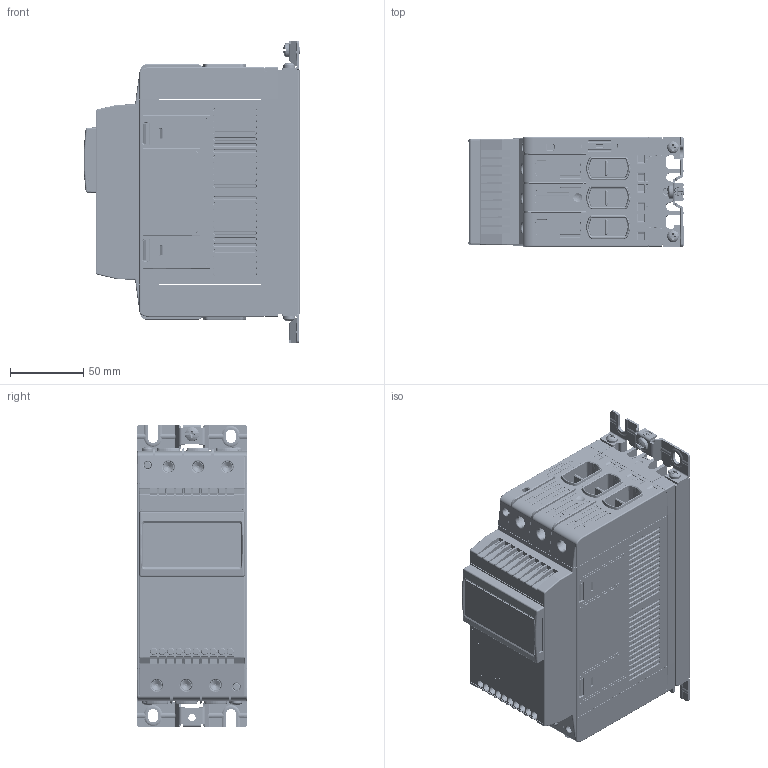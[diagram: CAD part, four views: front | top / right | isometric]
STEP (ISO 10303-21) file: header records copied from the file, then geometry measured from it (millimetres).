
FILE_DESCRIPTION((''),'2;1');
FILE_NAME('CGI1267-00-3D_3.stp','2015-09-10T15:08:40',('Silvio Theuma'),('Carlo Gavazzi Ltd. Malta'),'Mechanical Desktop 2011','Mechanical Desktop 2011',', , ');
FILE_SCHEMA(('CONFIG_CONTROL_DESIGN'));
Length unit declared in the file: millimetre
Products named in the file (3): ProductA; Product; CGI1267-00-3D
Assembly tree (2 placements, depth 3):
  ProductA
    Product
      CGI1267-00-3D
Bounding box: 147.42 x 75.2 x 206 mm (x, y, z)
Volume: 1547203.4 mm3; surface area: 203990.7 mm2
Topology: 83 solids, 90 shells, 19938 faces, 57284 edges, 37687 vertices
Faces by surface type: plane 16112, cylinder 2221, bspline 1203, cone 220, torus 118, sphere 64
Entity records: 708209 total; most frequent: CARTESIAN_POINT 186952, ORIENTED_EDGE 114392, DIRECTION 99869, EDGE_CURVE 57196, VECTOR 49211, LINE 49211, VERTEX_POINT 37687, AXIS2_PLACEMENT_3D 25329
